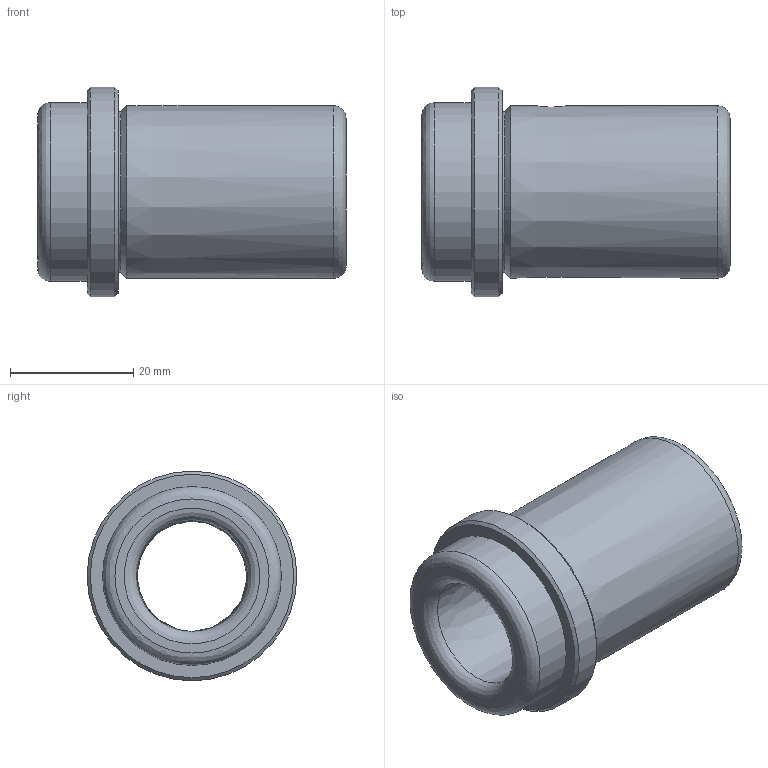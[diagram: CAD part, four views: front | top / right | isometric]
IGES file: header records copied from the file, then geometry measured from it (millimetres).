
Start section: Data from Parasolid IGES Translator 20.0.26, Copyright(c) 2006 Siemens P LM Software. All Rights Reserved.
Global section: file name: WZ - 4032 18 x 50.igs; native system: By Siemens PLM Incorporated; preprocessor: XPlus GENERIC/IGES 20.0.26; author: Noname; organization: Noname; date: 20201203.204108; units: inch
Bounding box: 50 x 34 x 34 mm (x, y, z)
Surface area: 8612.6 mm2 (no closed solid volume)
Topology: 0 solids, 0 shells, 19 faces, 70 edges, 48 vertices
Faces by surface type: revolution 14, extrusion 5
